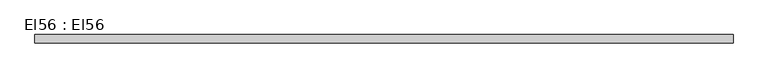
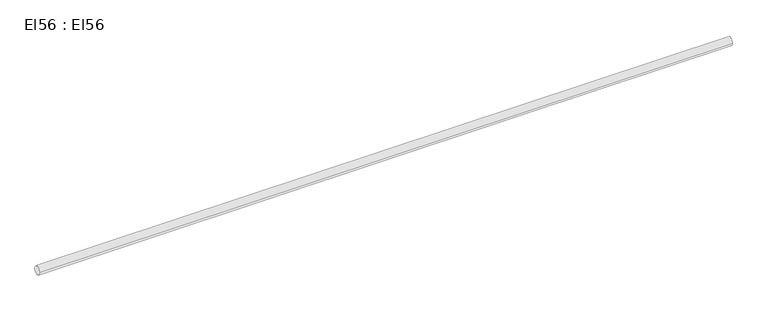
"""IFC4 building model written with IfcOpenShell, lengths in millimetres: cable carrier segment geometry, El56 : El56."""

from ifc_helpers import new_model, si_unit, point, frame, frame_2d, origin, place, context, project, spatial, circle_curve, trimmed, segment, composite_curve, outline, extrude, source, transform, mapped, element, save


def el56_el56_c2a3e1ed(model_context):
    return source(origin(), model_context, "Body", "SweptSolid", [
        extrude(outline(composite_curve([segment(trimmed(circle_curve(frame_2d((18729.6, 2950.0)), 9.5), [point((18720.1, 2950.0))], [point((18739.1, 2950.0))], False, "CARTESIAN"), True, "CONTINUOUS"), segment(trimmed(circle_curve(frame_2d((18729.6, 2950.0)), 9.5), [point((18739.1, 2950.0))], [point((18720.1, 2950.0))], False, "CARTESIAN"), True, "CONTINUOUS")], self_intersect=False)), frame((13826.213, 0.0, 0.0), z_axis=(1.0, 0.0, 0.0), x_axis=(0.0, 1.0, 0.0)), (0.0, 0.0, 1.0), 1550.77),
    ])


if __name__ == "__main__":
    model = new_model("IFC4")
    model_context = context("Model", 3, world=origin())
    ifc_project = project(units=[si_unit("LENGTHUNIT", "METRE", prefix="MILLI")], contexts=[model_context])
    site = spatial("IfcSite", under=ifc_project)
    building = spatial("IfcBuilding", under=site)
    placement = place(None, origin())
    el56_el56_shape = el56_el56_c2a3e1ed(model_context)
    element("IfcCableCarrierSegment", 1, ObjectType="El56 : El56", at=placement, inside=building, context=model_context, shape_type="MappedRepresentation", body=[
        mapped(el56_el56_shape, transform((0.0, 0.0, 0.0), x_axis=(1.0, 0.0, 0.0), y_axis=(0.0, 1.0, 0.0), z_axis=(0.0, 0.0, 1.0))),
    ])
    save(model, "model.ifc")
